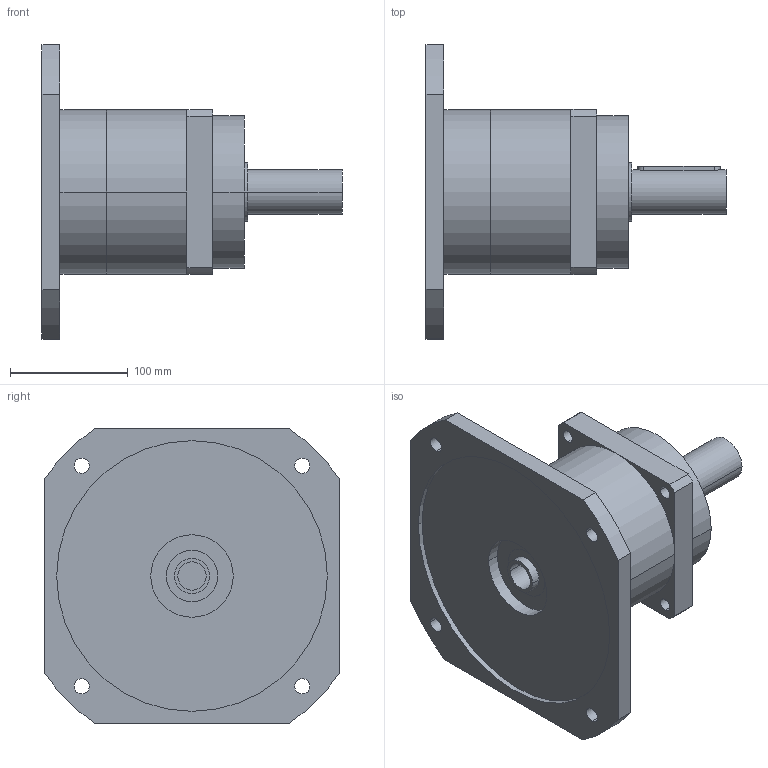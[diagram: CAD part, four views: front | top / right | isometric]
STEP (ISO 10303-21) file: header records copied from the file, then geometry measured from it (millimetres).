
FILE_DESCRIPTION(('CoCreate Modeling STEP Export'),'2;1');
FILE_NAME('GPR150_ig-3-4-5-7_38_B5_24_P07.stp','2014-08-19T16:42:25',(''),(''),'CoCreate Modeling STEP processor for AP214 (Solid Model)','CoCreate Modeling 16.00C 25-Feb-2009 (C) Parametric Technology GmbH','');
FILE_SCHEMA(('AUTOMOTIVE_DESIGN { 1 0 10303 214 1 1 1 1 }'));
Length unit declared in the file: millimetre
Products named in the file (2): GPR150_ig-3-4-5-7_38_B5_24_P07
Assembly tree (1 placements, depth 2):
  GPR150_ig-3-4-5-7_38_B5_24_P07
    GPR150_ig-3-4-5-7_38_B5_24_P07
Bounding box: 255 x 250 x 250 mm (x, y, z)
Volume: 3177224.3 mm3; surface area: 236615.6 mm2
Topology: 1 solids, 1 shells, 81 faces, 220 edges, 150 vertices
Faces by surface type: cylinder 48, plane 27, cone 6
Entity records: 2325 total; most frequent: ORIENTED_EDGE 436, CARTESIAN_POINT 431, DIRECTION 330, EDGE_CURVE 218, VERTEX_POINT 150, AXIS2_PLACEMENT_3D 121, EDGE_LOOP 108, VECTOR 88
